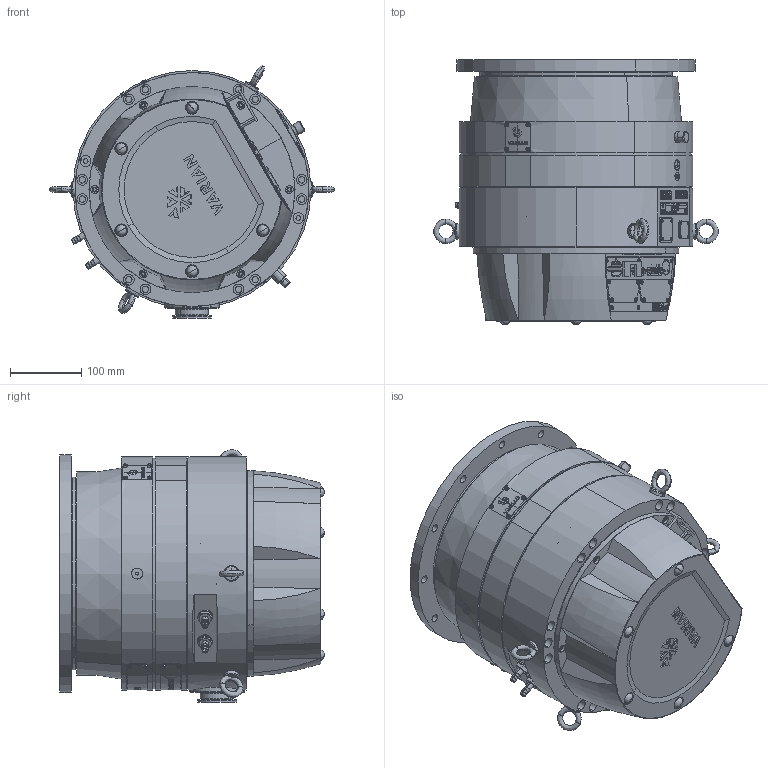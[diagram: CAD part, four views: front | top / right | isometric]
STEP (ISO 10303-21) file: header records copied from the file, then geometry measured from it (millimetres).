
FILE_DESCRIPTION (( 'STEP AP214' ), '1' );
FILE_NAME ('969-8888.STEP', '2021-01-07T08:35:02', ( '' ), ( '' ), 'SwSTEP 2.0', 'SolidWorks 2017', '' );
FILE_SCHEMA (( 'AUTOMOTIVE_DESIGN' ));
Length unit declared in the file: millimetre
Products named in the file (1): 969-8888
Bounding box: 400.74 x 371.87 x 355.01 mm (x, y, z)
Surface area: 1081264.6 mm2 (no closed solid volume)
Topology: 0 solids, 255 shells, 1510 faces, 12783 edges, 11472 vertices
Faces by surface type: plane 630, cylinder 451, bspline 190, cone 120, torus 91, sphere 28
Entity records: 157985 total; most frequent: CARTESIAN_POINT 53367, DIRECTION 16143, ORIENTED_EDGE 15177, EDGE_CURVE 12749, VERTEX_POINT 11472, VECTOR 8761, LINE 8761, AXIS2_PLACEMENT_3D 3691
